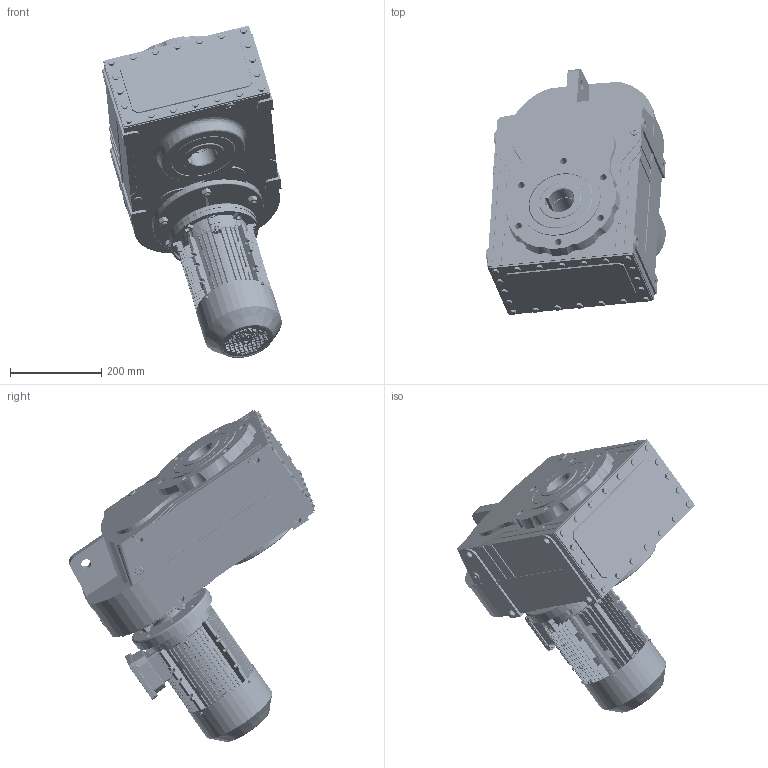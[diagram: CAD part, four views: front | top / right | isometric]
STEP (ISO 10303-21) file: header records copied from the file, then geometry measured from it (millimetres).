
FILE_DESCRIPTION (( 'STEP AP203' ), '1' );
FILE_NAME ('DV_573_0_MX3-90L.STEP', '2018-11-15T12:59:08', ( '' ), ( '' ), 'SwSTEP 2.0', 'SolidWorks 2012', '' );
FILE_SCHEMA (( 'CONFIG_CONTROL_DESIGN' ));
Products named in the file (27): DV_573_0_MX3-90L; IE3 90L flangeB5; hexagon socket head cap screws gb_GB_FASTENER_SCREWS_HSHCS M6X40-N; MX3-90L_B5; IE3 90L  oil seal_2; hexagon nuts grade c gb_GB_FASTENER_NUT_SNC1 M6-N_2; cross recessed pan head screws gb_GB_CROSS_SCREWS_TYPE1 M5X10-10  H type-N_2; IE3 90L cable glandsM16_2; plain washers-n series-grade a gb_GB_FASTENER_WASHER_PWNA 4_2; IE3 90L grouding mark_2; cross recessed pan head screws gb_GB_CROSS_SCREWS_TYPE1 M4X5-5  H type-N_2; IE3 90L flange_2; circlips for shaft--type a large gb_GB_CONNECTING_PIECE_RING_RRA 19_2; hexagon socket head cap screws gb_GB_FASTENER_SCREWS_HSHCS M6X30-N_2; hexagon flange head tapping screws gb_GB_SQUARE_AND_HEXAGON_TYPE137 ST4.2X9.5 F-N_2; spring lock washers--normal type gb_GB_FASTENER_WASHER_SW 6_2; cross recessed pan head tapping screws gb_GB_CROSS_SCREWS_TYPE128 ST4.2X9.5 H C-N_2; IE3 90L terminal box cover_2; IE3 90L terminal box_2; IE3 90L rotor_2; plain parallel keys_GB_CONNECTING_PIECE_KEYS_CSK 8X40_2; IE3 90L fan cover_2; IE3 90L fan_2; ML59A_Varsayìlan_1; IE3 90L casing_2; 4390B5_Varsayìlan; D573_Varsayìlan_1
Assembly tree (55 placements, depth 3):
  DV_573_0_MX3-90L
    D573_Varsayìlan_1
    4390B5_Varsayìlan
    ML59A_Varsayìlan_1
    MX3-90L_B5
      IE3 90L casing_2
      IE3 90L rotor_2
      IE3 90L fan_2
      IE3 90L fan cover_2
      plain parallel keys_GB_CONNECTING_PIECE_KEYS_CSK 8X40_2
      IE3 90L terminal box_2
      IE3 90L terminal box cover_2
      spring lock washers--normal type gb_GB_FASTENER_WASHER_SW 6_2  x8
      cross recessed pan head tapping screws gb_GB_CROSS_SCREWS_TYPE128 ST4.2X9.5 H C-N_2  x4
      hexagon flange head tapping screws gb_GB_SQUARE_AND_HEXAGON_TYPE137 ST4.2X9.5 F-N_2  x4
      hexagon socket head cap screws gb_GB_FASTENER_SCREWS_HSHCS M6X30-N_2  x4
      IE3 90L flange_2
      circlips for shaft--type a large gb_GB_CONNECTING_PIECE_RING_RRA 19_2
      IE3 90L grouding mark_2
      plain washers-n series-grade a gb_GB_FASTENER_WASHER_PWNA 4_2
      cross recessed pan head screws gb_GB_CROSS_SCREWS_TYPE1 M4X5-5  H type-N_2
      cross recessed pan head screws gb_GB_CROSS_SCREWS_TYPE1 M5X10-10  H type-N_2  x4
      IE3 90L cable glandsM16_2  x2
      IE3 90L  oil seal_2
      hexagon nuts grade c gb_GB_FASTENER_NUT_SNC1 M6-N_2  x7
      IE3 90L flangeB5
      hexagon socket head cap screws gb_GB_FASTENER_SCREWS_HSHCS M6X40-N  x4
Bounding box: 394.11 x 539.82 x 728.44 mm (x, y, z)
Volume: 33426584.6 mm3; surface area: 2023964.2 mm2
Topology: 56 solids, 56 shells, 5656 faces, 14209 edges, 8735 vertices
Faces by surface type: plane 2142, cylinder 1703, bspline 1049, cone 604, sphere 100, torus 58
Entity records: 192560 total; most frequent: CARTESIAN_POINT 76444, ORIENTED_EDGE 25220, DIRECTION 21004, EDGE_CURVE 12610, VERTEX_POINT 7811, AXIS2_PLACEMENT_3D 7720, LINE 5564, VECTOR 5564
